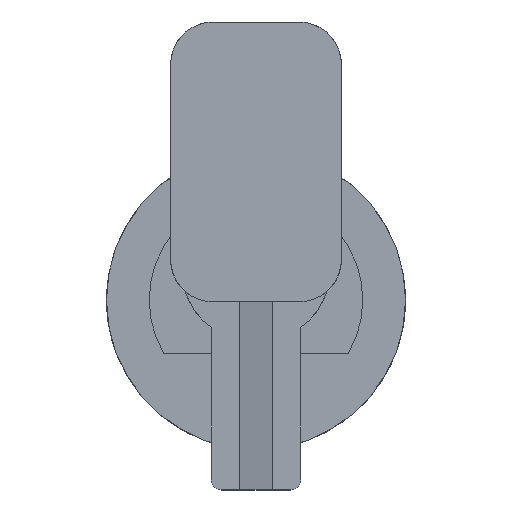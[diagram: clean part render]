
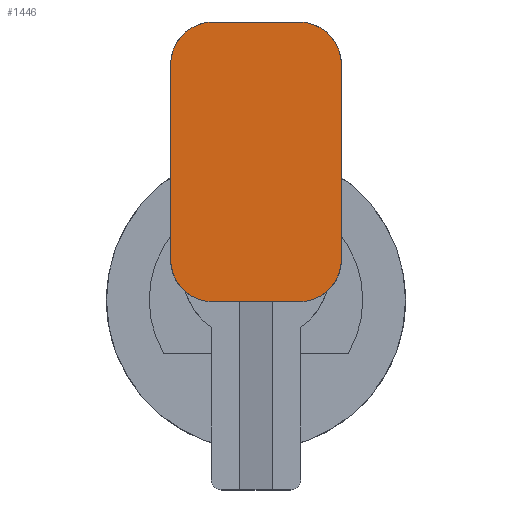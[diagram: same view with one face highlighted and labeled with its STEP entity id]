
A CAD part, top view. The second image highlights one B-rep face of the part: STEP entity #1446.
In plain terms, the highlighted planar face has unit normal (0, 0, 1).
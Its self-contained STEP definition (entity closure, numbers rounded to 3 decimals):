
#18 = CARTESIAN_POINT ( 'NONE',  ( -2., -0.1, 12.9 ) ) ;
#276 = LINE ( 'NONE', #287, #290 ) ;
#287 = CARTESIAN_POINT ( 'NONE',  ( -4., 13., 12.9 ) ) ;
#290 = VECTOR ( 'NONE', #298, 1000. ) ;
#298 = DIRECTION ( 'NONE',  ( 0., -1., 0. ) ) ;
#443 = DIRECTION ( 'NONE',  ( -1., 0., 0. ) ) ;
#444 = VECTOR ( 'NONE', #443, 1000. ) ;
#445 = CARTESIAN_POINT ( 'NONE',  ( -4., 13., 12.9 ) ) ;
#446 = LINE ( 'NONE', #445, #444 ) ;
#462 = CARTESIAN_POINT ( 'NONE',  ( -4., 1.9, 12.9 ) ) ;
#482 = DIRECTION ( 'NONE',  ( 1., 0., 0. ) ) ;
#483 = DIRECTION ( 'NONE',  ( 0., 0., 1. ) ) ;
#484 = CARTESIAN_POINT ( 'NONE',  ( 2., 11., 12.9 ) ) ;
#485 = AXIS2_PLACEMENT_3D ( 'NONE', #484, #483, #482 ) ;
#486 = CIRCLE ( 'NONE', #485, 2. ) ;
#487 = DIRECTION ( 'NONE',  ( 1., 0., 0. ) ) ;
#488 = DIRECTION ( 'NONE',  ( 0., 0., 1. ) ) ;
#489 = CARTESIAN_POINT ( 'NONE',  ( -2., 11., 12.9 ) ) ;
#490 = AXIS2_PLACEMENT_3D ( 'NONE', #489, #488, #487 ) ;
#491 = CIRCLE ( 'NONE', #490, 2. ) ;
#493 = DIRECTION ( 'NONE',  ( 1., 0., 0. ) ) ;
#494 = DIRECTION ( 'NONE',  ( 0., 0., 1. ) ) ;
#495 = CARTESIAN_POINT ( 'NONE',  ( -2., 1.9, 12.9 ) ) ;
#496 = AXIS2_PLACEMENT_3D ( 'NONE', #495, #494, #493 ) ;
#497 = CIRCLE ( 'NONE', #496, 2. ) ;
#503 = CARTESIAN_POINT ( 'NONE',  ( -4., 11., 12.9 ) ) ;
#589 = FACE_OUTER_BOUND ( 'NONE', #1447, .T. ) ;
#599 = DIRECTION ( 'NONE',  ( 1., 0., 0. ) ) ;
#600 = DIRECTION ( 'NONE',  ( 0., 0., 1. ) ) ;
#601 = CARTESIAN_POINT ( 'NONE',  ( -4., -0.1, 12.9 ) ) ;
#602 = CIRCLE ( 'NONE', #607, 2. ) ;
#604 = DIRECTION ( 'NONE',  ( 1., 0., 0. ) ) ;
#605 = DIRECTION ( 'NONE',  ( 0., 0., 1. ) ) ;
#606 = CARTESIAN_POINT ( 'NONE',  ( 2., 1.9, 12.9 ) ) ;
#607 = AXIS2_PLACEMENT_3D ( 'NONE', #606, #605, #604 ) ;
#608 = AXIS2_PLACEMENT_3D ( 'NONE', #601, #600, #599 ) ;
#615 = PLANE ( 'NONE',  #608 ) ;
#620 = CARTESIAN_POINT ( 'NONE',  ( 2., 13., 12.9 ) ) ;
#648 = CARTESIAN_POINT ( 'NONE',  ( -2., 13., 12.9 ) ) ;
#709 = VERTEX_POINT ( 'NONE', #1394 ) ;
#711 = EDGE_CURVE ( 'NONE', #1042, #709, #1393, .T. ) ;
#880 = VERTEX_POINT ( 'NONE', #1828 ) ;
#882 = EDGE_CURVE ( 'NONE', #883, #880, #1827, .T. ) ;
#883 = VERTEX_POINT ( 'NONE', #1823 ) ;
#1042 = VERTEX_POINT ( 'NONE', #18 ) ;
#1266 = EDGE_CURVE ( 'NONE', #1455, #1469, #446, .T. ) ;
#1279 = VERTEX_POINT ( 'NONE', #462 ) ;
#1281 = EDGE_CURVE ( 'NONE', #1282, #1279, #276, .T. ) ;
#1282 = VERTEX_POINT ( 'NONE', #503 ) ;
#1296 = EDGE_CURVE ( 'NONE', #880, #1455, #486, .T. ) ;
#1297 = ORIENTED_EDGE ( 'NONE', *, *, #1266, .T. ) ;
#1298 = ORIENTED_EDGE ( 'NONE', *, *, #1299, .T. ) ;
#1299 = EDGE_CURVE ( 'NONE', #1469, #1282, #491, .T. ) ;
#1300 = ORIENTED_EDGE ( 'NONE', *, *, #1281, .T. ) ;
#1301 = ORIENTED_EDGE ( 'NONE', *, *, #1302, .T. ) ;
#1302 = EDGE_CURVE ( 'NONE', #1279, #1042, #497, .T. ) ;
#1390 = DIRECTION ( 'NONE',  ( 1., 0., 0. ) ) ;
#1391 = VECTOR ( 'NONE', #1390, 1000. ) ;
#1392 = CARTESIAN_POINT ( 'NONE',  ( -4., -0.1, 12.9 ) ) ;
#1393 = LINE ( 'NONE', #1392, #1391 ) ;
#1394 = CARTESIAN_POINT ( 'NONE',  ( 2., -0.1, 12.9 ) ) ;
#1441 = ORIENTED_EDGE ( 'NONE', *, *, #882, .T. ) ;
#1442 = ORIENTED_EDGE ( 'NONE', *, *, #1296, .T. ) ;
#1446 = ADVANCED_FACE ( 'NONE', ( #589 ), #615, .T. ) ;
#1447 = EDGE_LOOP ( 'NONE', ( #1448, #1449, #1441, #1442, #1297, #1298, #1300, #1301 ) ) ;
#1448 = ORIENTED_EDGE ( 'NONE', *, *, #711, .T. ) ;
#1449 = ORIENTED_EDGE ( 'NONE', *, *, #1450, .T. ) ;
#1450 = EDGE_CURVE ( 'NONE', #709, #883, #602, .T. ) ;
#1455 = VERTEX_POINT ( 'NONE', #620 ) ;
#1469 = VERTEX_POINT ( 'NONE', #648 ) ;
#1823 = CARTESIAN_POINT ( 'NONE',  ( 4., 1.9, 12.9 ) ) ;
#1824 = DIRECTION ( 'NONE',  ( 0., 1., 0. ) ) ;
#1825 = VECTOR ( 'NONE', #1824, 1000. ) ;
#1826 = CARTESIAN_POINT ( 'NONE',  ( 4., 13., 12.9 ) ) ;
#1827 = LINE ( 'NONE', #1826, #1825 ) ;
#1828 = CARTESIAN_POINT ( 'NONE',  ( 4., 11., 12.9 ) ) ;
